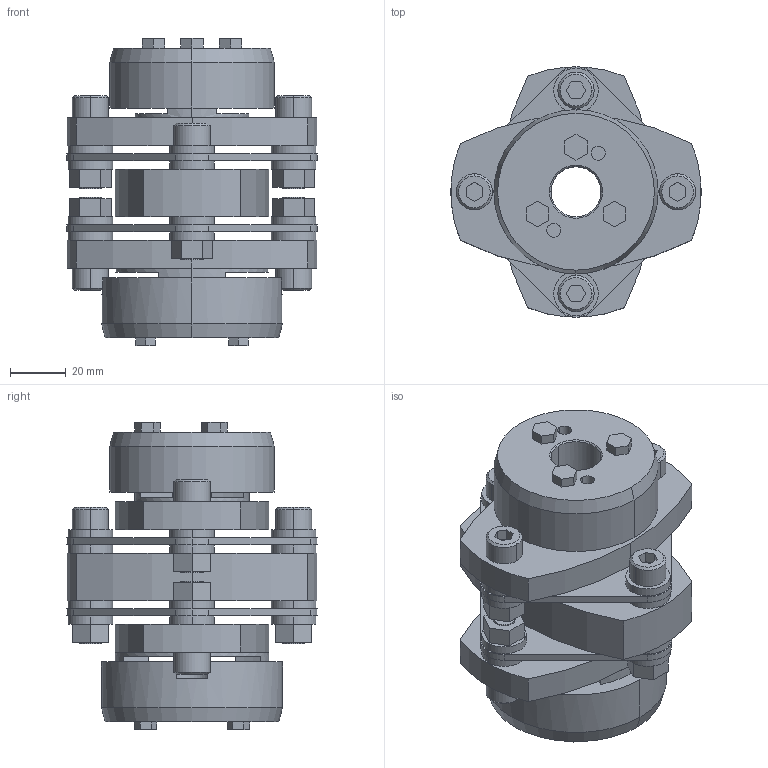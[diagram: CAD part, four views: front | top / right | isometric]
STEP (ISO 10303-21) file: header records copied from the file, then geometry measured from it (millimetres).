
FILE_DESCRIPTION((''),'2;1');
FILE_NAME('LCD-90T7-18×35.stp','2015-11-01T19:25:01',(''),(''),'AutoCAD STEP 2000i','AutoCAD 2000i',', , ');
FILE_SCHEMA(('CONFIG_CONTROL_DESIGN'));
Length unit declared in the file: millimetre
Products named in the file (9): LCD-90T7-19×35; 忣兜1; LC90T7-T035; LC90T7-T032; LC90T7-T030; LC90T7-T025; LC90T7-T019-1; LC90T7-T019; LCD90-ITA
Assembly tree (8 placements, depth 2):
  LCD-90T7-19×35
    忣兜1
    LC90T7-T035
    LC90T7-T032
    LC90T7-T030
    LC90T7-T025
    LC90T7-T019-1
    LC90T7-T019
    LCD90-ITA
Bounding box: 90 x 89.94 x 110.3 mm (x, y, z)
Volume: 271497.7 mm3; surface area: 74263.1 mm2
Topology: 1 solids, 1 shells, 332 faces, 810 edges, 530 vertices
Faces by surface type: plane 186, cylinder 122, cone 24
Entity records: 10041 total; most frequent: DIRECTION 1780, CARTESIAN_POINT 1681, ORIENTED_EDGE 1620, EDGE_CURVE 810, AXIS2_PLACEMENT_3D 629, VERTEX_POINT 530, VECTOR 522, LINE 522
